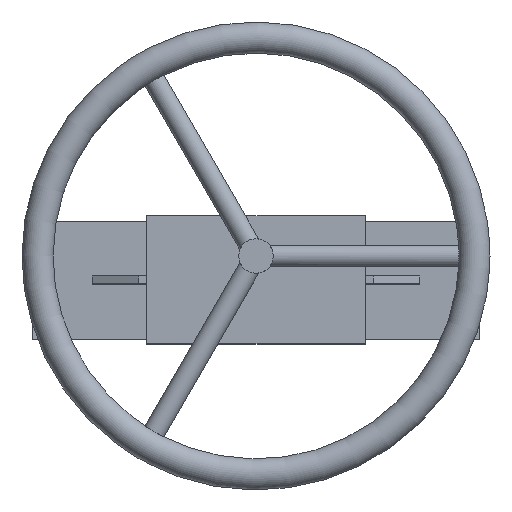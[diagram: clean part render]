
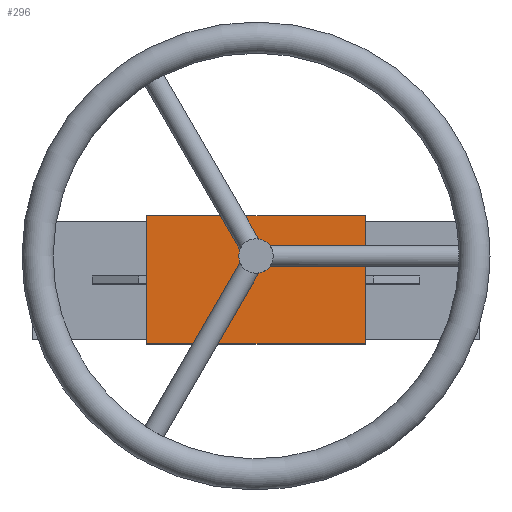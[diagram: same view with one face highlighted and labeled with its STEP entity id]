
A CAD part, top view. The second image highlights one B-rep face of the part: STEP entity #296.
In plain terms, the highlighted planar face has unit normal (0, 0, 1).
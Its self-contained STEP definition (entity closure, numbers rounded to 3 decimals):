
#296=ADVANCED_FACE('',(#1149,#1151),#1153,.T.);
#1149=FACE_BOUND('',#1150,.T.);
#1150=EDGE_LOOP('',(#1887,#1888,#1889,#1890));
#1151=FACE_BOUND('',#1152,.T.);
#1152=EDGE_LOOP('',(#1891));
#1153=PLANE('',#1154);
#1154=AXIS2_PLACEMENT_3D('',#1155,#1156,#1157);
#1155=CARTESIAN_POINT('',(-70.,41.,528.));
#1156=DIRECTION('',(-0.,0.,1.));
#1157=DIRECTION('',(0.,-1.,0.));
#1887=ORIENTED_EDGE('',*,*,#2299,.T.);
#1888=ORIENTED_EDGE('',*,*,#2313,.T.);
#1889=ORIENTED_EDGE('',*,*,#2304,.F.);
#1890=ORIENTED_EDGE('',*,*,#2314,.F.);
#1891=ORIENTED_EDGE('',*,*,#2315,.T.);
#2299=EDGE_CURVE('',#2597,#2595,#2598,.T.);
#2304=EDGE_CURVE('',#2604,#2606,#2607,.T.);
#2313=EDGE_CURVE('',#2595,#2606,#2621,.T.);
#2314=EDGE_CURVE('',#2597,#2604,#2622,.T.);
#2315=EDGE_CURVE('',#2623,#2623,#2624,.T.);
#2595=VERTEX_POINT('',#3167);
#2597=VERTEX_POINT('',#3171);
#2598=LINE('',#3172,#3173);
#2604=VERTEX_POINT('',#3186);
#2606=VERTEX_POINT('',#3190);
#2607=LINE('',#3191,#3192);
#2621=LINE('',#3223,#3224);
#2622=LINE('',#3226,#3227);
#2623=VERTEX_POINT('',#3229);
#2624=CIRCLE('',#3230,11.);
#3167=CARTESIAN_POINT('',(-70.,-41.,528.));
#3171=CARTESIAN_POINT('',(-70.,41.,528.));
#3172=CARTESIAN_POINT('',(-70.,41.,528.));
#3173=VECTOR('',#3174,1.);
#3174=DIRECTION('',(0.,-1.,0.));
#3186=CARTESIAN_POINT('',(70.,41.,528.));
#3190=CARTESIAN_POINT('',(70.,-41.,528.));
#3191=CARTESIAN_POINT('',(70.,41.,528.));
#3192=VECTOR('',#3193,1.);
#3193=DIRECTION('',(0.,-1.,0.));
#3223=CARTESIAN_POINT('',(-70.,-41.,528.));
#3224=VECTOR('',#3225,1.);
#3225=DIRECTION('',(1.,0.,0.));
#3226=CARTESIAN_POINT('',(-70.,41.,528.));
#3227=VECTOR('',#3228,1.);
#3228=DIRECTION('',(1.,0.,0.));
#3229=CARTESIAN_POINT('',(0.,26.,528.));
#3230=AXIS2_PLACEMENT_3D('',#3231,#3232,#3233);
#3231=CARTESIAN_POINT('',(0.,15.,528.));
#3232=DIRECTION('',(0.,-0.,-1.));
#3233=DIRECTION('',(0.,1.,0.));
